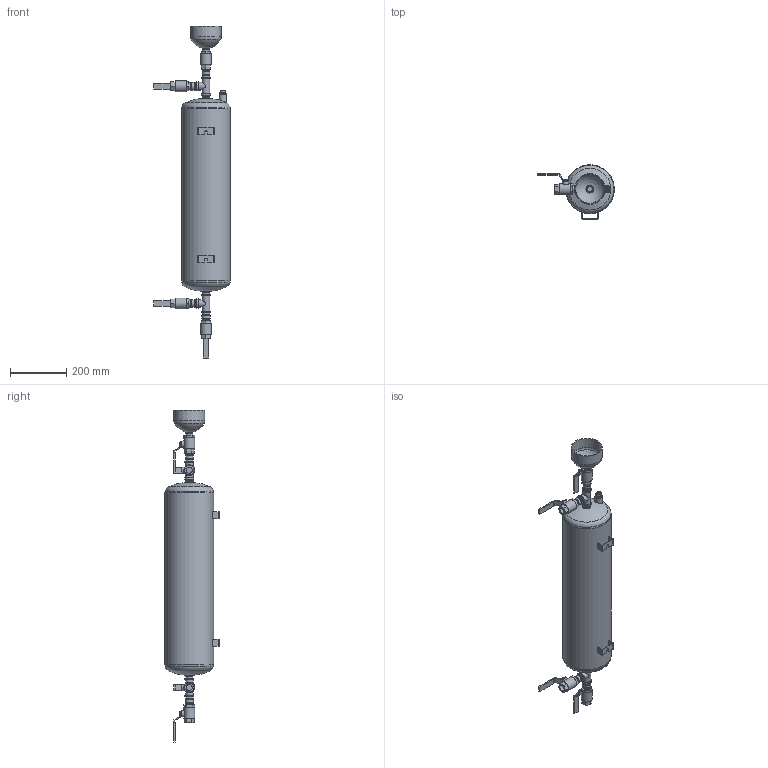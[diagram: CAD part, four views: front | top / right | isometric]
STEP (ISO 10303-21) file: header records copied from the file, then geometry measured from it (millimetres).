
FILE_DESCRIPTION(/* description */ (''),/* implementation_level */ '2;1');
FILE_NAME(/* name */ '\\DATASERVER\data\Flamco\3D-Modellen\Inventor\Dosing Pot\2021\2021 Dosing Pot 15 L\2021_Dosing Pot 15L.stp',/* time_stamp */ '2021-02-17T11:01:53+01:00',/* author */ ('kasius'),/* organization */ (''),/* preprocessor_version */ 'ST-DEVELOPER v17',/* originating_system */ 'Autodesk Inventor 2018',/* authorisation */ '');
FILE_SCHEMA (('AUTOMOTIVE_DESIGN { 1 0 10303 214 3 1 1 }'));
Length unit declared in the file: millimetre
Products named in the file (1): 2021_Dosing Pot 15L
Bounding box: 273.39 x 193.17 x 1184.27 mm (x, y, z)
Volume: 16404594.3 mm3; surface area: 564627.7 mm2
Topology: 1 solids, 1 shells, 311 faces, 797 edges, 545 vertices
Faces by surface type: plane 223, cylinder 65, cone 14, torus 5, sphere 4
Full cylindrical faces by diameter (mm): 9.8 x1, 15.875 x8, 19 x1, 19.3 x1, 21.514 x4, 21.749 x3, 23.8 x1, 25.8 x3, 26 x3, 26.5 x1, 26.753 x3, 26.754 x5, 27 x3, 27.2 x4, 29.941 x1, 32.64 x6, 38.495 x4, 106 x1, 110 x1, 174 x1
Entity records: 9887 total; most frequent: CARTESIAN_POINT 1856, DIRECTION 1723, ORIENTED_EDGE 1594, EDGE_CURVE 797, AXIS2_PLACEMENT_3D 624, VERTEX_POINT 545, LINE 475, VECTOR 475
